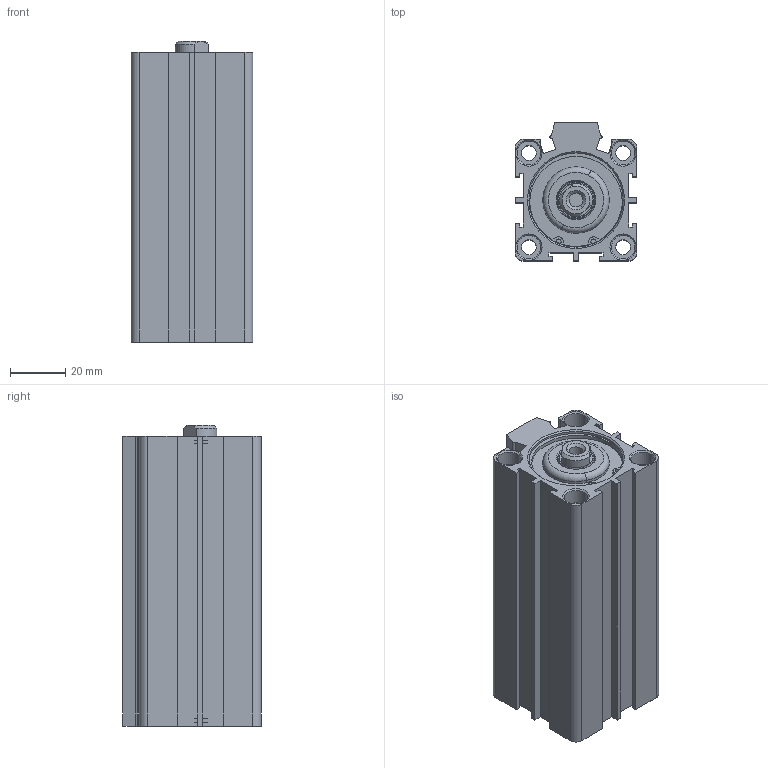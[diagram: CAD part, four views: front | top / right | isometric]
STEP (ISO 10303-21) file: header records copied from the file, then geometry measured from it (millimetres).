
FILE_DESCRIPTION (( 'STEP AP214' ), '1' );
FILE_NAME ('SDA_32_70_WEB.STEP', '2021-01-22T11:31:42', ( 'cagdas' ), ( '' ), 'SwSTEP 2.0', 'SolidWorks 2021', '' );
FILE_SCHEMA (( 'AUTOMOTIVE_DESIGN' ));
Length unit declared in the file: millimetre
Products named in the file (7): SDA32ARKKAPAK; SDA32ONKAPAKDINCPLASTIK; 20_MIL_WEB; KASTAS-K52-12X16_5X3_6-4_8; SDA32_BORU_WEB; basic internal retaining ring_am_B27.7M - 3BM1-36; SDA_32_70_WEB
Assembly tree (7 placements, depth 2):
  SDA_32_70_WEB
    SDA32_BORU_WEB
    SDA32ONKAPAKDINCPLASTIK
    KASTAS-K52-12X16_5X3_6-4_8
    SDA32ARKKAPAK
    20_MIL_WEB
    basic internal retaining ring_am_B27.7M - 3BM1-36  x2
Bounding box: 44 x 50 x 108.85 mm (x, y, z)
Volume: 108728.1 mm3; surface area: 57489 mm2
Topology: 7 solids, 7 shells, 467 faces, 1165 edges, 750 vertices
Faces by surface type: plane 178, cylinder 124, bspline 85, cone 76, torus 4
Entity records: 19570 total; most frequent: CARTESIAN_POINT 7109, ORIENTED_EDGE 2228, DIRECTION 1994, EDGE_CURVE 1114, VERTEX_POINT 716, AXIS2_PLACEMENT_3D 687, LINE 620, VECTOR 620
